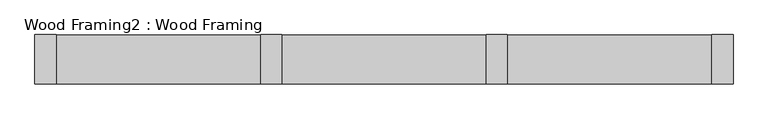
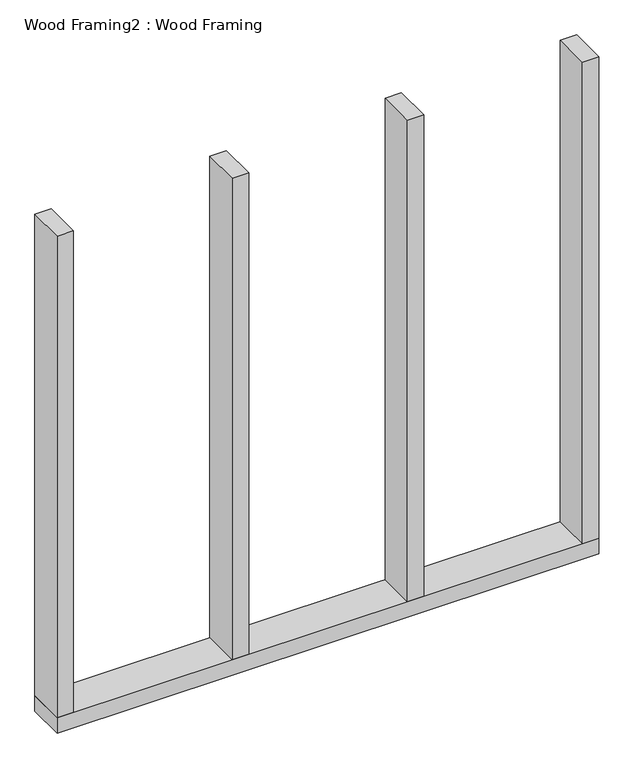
"""IFC4 building model written with IfcOpenShell, lengths in millimetres: proxy geometry, Wood Framing2 : Wood Framing."""

from ifc_helpers import new_model, si_unit, frame, origin, origin_with_axes, place, context, project, spatial, polyline, outline, extrude, source, transform, mapped, element, save


def wood_framing2_wood_framing_20de2fae(model_context):
    return source(origin(), model_context, "Body", "SweptSolid", [
        extrude(outline(polyline([(6980.847143, 3862.6765644), (6980.847143, 3951.5765644), (7018.947143, 3951.5765644), (7018.947143, 3862.6765644), (6980.847143, 3862.6765644)])), frame((0.0, 0.0, 38.1), z_axis=(0.0, 0.0, 1.0), x_axis=(1.0, 0.0, 0.0)), (0.0, 0.0, 1.0), 1181.1),
        extrude(outline(polyline([(6574.447143, 3862.6765644), (6574.447143, 3951.5765644), (6612.547143, 3951.5765644), (6612.547143, 3862.6765644), (6574.447143, 3862.6765644)])), frame((0.0, 0.0, 38.1), z_axis=(0.0, 0.0, 1.0), x_axis=(1.0, 0.0, 0.0)), (0.0, 0.0, 1.0), 1181.1),
        extrude(outline(polyline([(6168.047143, 3862.6765644), (6168.047143, 3951.5765644), (6206.147143, 3951.5765644), (6206.147143, 3862.6765644), (6168.047143, 3862.6765644)])), frame((0.0, 0.0, 38.1), z_axis=(0.0, 0.0, 1.0), x_axis=(1.0, 0.0, 0.0)), (0.0, 0.0, 1.0), 1181.1),
        extrude(outline(polyline([(5761.647143, 3862.6765644), (5761.647143, 3951.5765644), (5799.747143, 3951.5765644), (5799.747143, 3862.6765644), (5761.647143, 3862.6765644)])), frame((0.0, 0.0, 38.1), z_axis=(0.0, 0.0, 1.0), x_axis=(1.0, 0.0, 0.0)), (0.0, 0.0, 1.0), 1181.1),
        extrude(outline(polyline([(7018.947143, 3951.5765644), (7018.947143, 3862.6765644), (5761.647143, 3862.6765644), (5761.647143, 3951.5765644), (7018.947143, 3951.5765644)])), origin_with_axes(), (0.0, 0.0, 1.0), 38.1),
    ])


if __name__ == "__main__":
    model = new_model("IFC4")
    model_context = context("Model", 3, world=origin())
    ifc_project = project(units=[si_unit("LENGTHUNIT", "METRE", prefix="MILLI")], contexts=[model_context])
    site = spatial("IfcSite", under=ifc_project)
    building = spatial("IfcBuilding", under=site)
    placement = place(None, origin())
    wood_framing2_wood_framing_shape = wood_framing2_wood_framing_20de2fae(model_context)
    element("IfcBuildingElementProxy", 1, Name="Wood Framing2 : Wood Framing", ObjectType="Wood Framing2 : Wood Framing", at=placement, inside=building, context=model_context, shape_type="MappedRepresentation", body=[
        mapped(wood_framing2_wood_framing_shape, transform((0.0, 0.0, 0.0), x_axis=(1.0, 0.0, 0.0), y_axis=(0.0, 1.0, 0.0), z_axis=(0.0, 0.0, 1.0))),
    ])
    save(model, "model.ifc")
